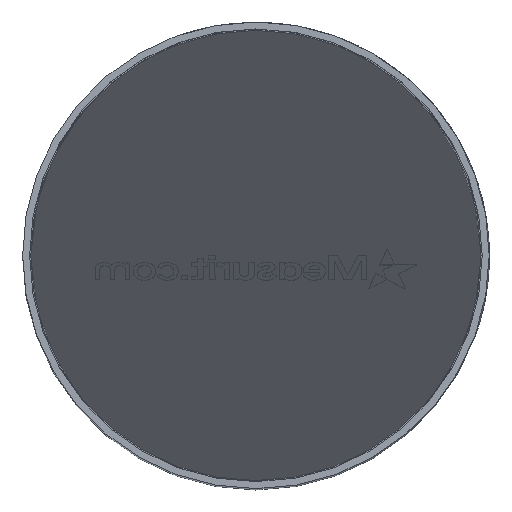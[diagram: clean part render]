
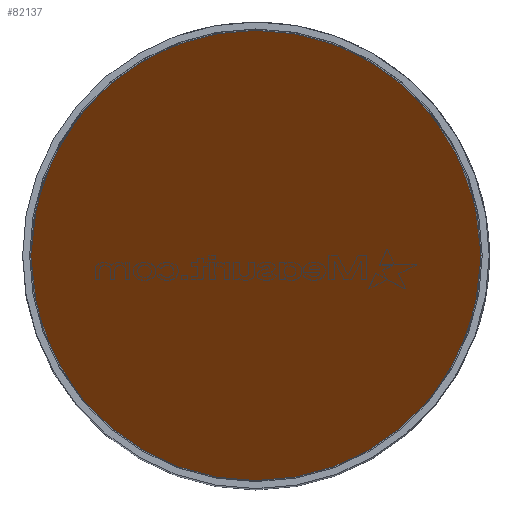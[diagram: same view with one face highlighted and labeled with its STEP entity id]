
A CAD part, top view. The second image highlights one B-rep face of the part: STEP entity #82137.
In plain terms, the highlighted planar face has unit normal (0, -0.707, 0.707).
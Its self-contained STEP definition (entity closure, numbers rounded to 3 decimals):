
#2663 = DIRECTION ( 'NONE',  ( 0., 0.707, -0.707 ) ) ;
#12059 = PLANE ( 'NONE',  #34112 ) ;
#15493 = CARTESIAN_POINT ( 'NONE',  ( -579., 1158., 2180.828 ) ) ;
#17920 = FACE_OUTER_BOUND ( 'NONE', #75255, .T. ) ;
#28907 = VERTEX_POINT ( 'NONE', #80268 ) ;
#29330 = CARTESIAN_POINT ( 'NONE',  ( -579., -1158., -135.172 ) ) ;
#33355 = CARTESIAN_POINT ( 'NONE',  ( -579., 0., 1022.828 ) ) ;
#34112 = AXIS2_PLACEMENT_3D ( 'NONE', #65656, #2663, #97798 ) ;
#46959 = CARTESIAN_POINT ( 'NONE',  ( 579., 1158., 2180.828 ) ) ;
#49737 =( BOUNDED_CURVE ( )  B_SPLINE_CURVE ( 3, ( #54887, #46959, #15493, #33355 ),
 .UNSPECIFIED., .F., .T. ) 
 B_SPLINE_CURVE_WITH_KNOTS ( ( 4, 4 ),
 ( 1.571, 4.712 ),
 .UNSPECIFIED. ) 
 CURVE ( )  GEOMETRIC_REPRESENTATION_ITEM ( )  RATIONAL_B_SPLINE_CURVE ( ( 1., 0.333, 0.333, 1. ) ) 
 REPRESENTATION_ITEM ( '' )  );
#54887 = CARTESIAN_POINT ( 'NONE',  ( 579., 0., 1022.828 ) ) ;
#60457 =( BOUNDED_CURVE ( )  B_SPLINE_CURVE ( 3, ( #62346, #29330, #94520, #93489 ),
 .UNSPECIFIED., .F., .T. ) 
 B_SPLINE_CURVE_WITH_KNOTS ( ( 4, 4 ),
 ( 4.712, 7.854 ),
 .UNSPECIFIED. ) 
 CURVE ( )  GEOMETRIC_REPRESENTATION_ITEM ( )  RATIONAL_B_SPLINE_CURVE ( ( 1., 0.333, 0.333, 1. ) ) 
 REPRESENTATION_ITEM ( '' )  );
#62346 = CARTESIAN_POINT ( 'NONE',  ( -579., 0., 1022.828 ) ) ;
#65292 = VERTEX_POINT ( 'NONE', #73428 ) ;
#65656 = CARTESIAN_POINT ( 'NONE',  ( 1731.177, -511.414, 511.414 ) ) ;
#73428 = CARTESIAN_POINT ( 'NONE',  ( -579., 0., 1022.828 ) ) ;
#75255 = EDGE_LOOP ( 'NONE', ( #95499, #96921 ) ) ;
#80268 = CARTESIAN_POINT ( 'NONE',  ( 579., 0., 1022.828 ) ) ;
#80962 = EDGE_CURVE ( 'NONE', #65292, #28907, #60457, .T. ) ;
#82137 = ADVANCED_FACE ( 'NONE', ( #17920 ), #12059, .F. ) ;
#86058 = EDGE_CURVE ( 'NONE', #28907, #65292, #49737, .T. ) ;
#93489 = CARTESIAN_POINT ( 'NONE',  ( 579., 0., 1022.828 ) ) ;
#94520 = CARTESIAN_POINT ( 'NONE',  ( 579., -1158., -135.172 ) ) ;
#95499 = ORIENTED_EDGE ( 'NONE', *, *, #80962, .T. ) ;
#96921 = ORIENTED_EDGE ( 'NONE', *, *, #86058, .T. ) ;
#97798 = DIRECTION ( 'NONE',  ( 0., 0.707, 0.707 ) ) ;
